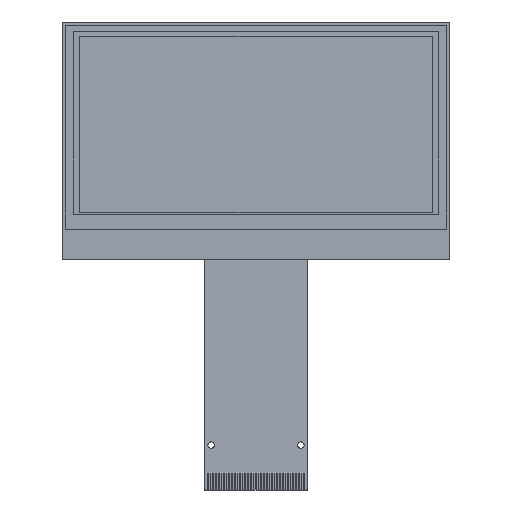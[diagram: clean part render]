
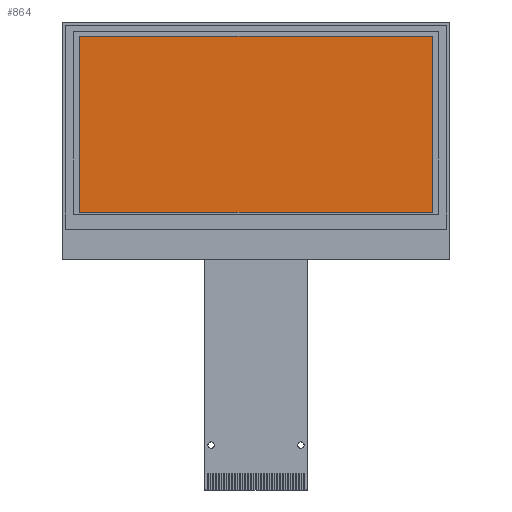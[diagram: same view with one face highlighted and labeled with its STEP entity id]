
A CAD part, top view. The second image highlights one B-rep face of the part: STEP entity #864.
In plain terms, the highlighted planar face has unit normal (0, 0, 1).
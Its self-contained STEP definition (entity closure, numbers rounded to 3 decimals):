
#68 = EDGE_CURVE ( 'NONE', #1901, #5783, #6812, .T. ) ;
#162 = AXIS2_PLACEMENT_3D ( 'NONE', #180, #4733, #6948 ) ;
#180 = CARTESIAN_POINT ( 'NONE',  ( 0., 0., 0.95 ) ) ;
#430 = LINE ( 'NONE', #2493, #6013 ) ;
#788 = ORIENTED_EDGE ( 'NONE', *, *, #6440, .F. ) ;
#864 = ADVANCED_FACE ( 'NONE', ( #6216 ), #3361, .T. ) ;
#1028 = ORIENTED_EDGE ( 'NONE', *, *, #1053, .F. ) ;
#1053 = EDGE_CURVE ( 'NONE', #5794, #1901, #5471, .T. ) ;
#1135 = DIRECTION ( 'NONE',  ( -1., 0., 0. ) ) ;
#1759 = EDGE_CURVE ( 'NONE', #2519, #5794, #430, .T. ) ;
#1822 = DIRECTION ( 'NONE',  ( 0., 1., 0. ) ) ;
#1872 = DIRECTION ( 'NONE',  ( 1., 0., 0. ) ) ;
#1901 = VERTEX_POINT ( 'NONE', #7154 ) ;
#2239 = ORIENTED_EDGE ( 'NONE', *, *, #68, .F. ) ;
#2292 = CARTESIAN_POINT ( 'NONE',  ( 0., -29.69, 0.95 ) ) ;
#2353 = VECTOR ( 'NONE', #1822, 1000. ) ;
#2493 = CARTESIAN_POINT ( 'NONE',  ( 57.76, 0., 0.95 ) ) ;
#2519 = VERTEX_POINT ( 'NONE', #3707 ) ;
#2875 = CARTESIAN_POINT ( 'NONE',  ( 57.76, -29.69, 0.95 ) ) ;
#2984 = CARTESIAN_POINT ( 'NONE',  ( 2.75, 0., 0.95 ) ) ;
#3041 = DIRECTION ( 'NONE',  ( 0., -1., 0. ) ) ;
#3165 = ORIENTED_EDGE ( 'NONE', *, *, #1759, .F. ) ;
#3191 = VECTOR ( 'NONE', #1135, 1000. ) ;
#3361 = PLANE ( 'NONE',  #162 ) ;
#3630 = LINE ( 'NONE', #6858, #5384 ) ;
#3707 = CARTESIAN_POINT ( 'NONE',  ( 57.76, -2.2, 0.95 ) ) ;
#4733 = DIRECTION ( 'NONE',  ( 0., 0., 1. ) ) ;
#5384 = VECTOR ( 'NONE', #1872, 1000. ) ;
#5471 = LINE ( 'NONE', #2292, #3191 ) ;
#5783 = VERTEX_POINT ( 'NONE', #6503 ) ;
#5794 = VERTEX_POINT ( 'NONE', #2875 ) ;
#6013 = VECTOR ( 'NONE', #3041, 1000. ) ;
#6216 = FACE_OUTER_BOUND ( 'NONE', #7000, .T. ) ;
#6440 = EDGE_CURVE ( 'NONE', #5783, #2519, #3630, .T. ) ;
#6503 = CARTESIAN_POINT ( 'NONE',  ( 2.75, -2.2, 0.95 ) ) ;
#6812 = LINE ( 'NONE', #2984, #2353 ) ;
#6858 = CARTESIAN_POINT ( 'NONE',  ( 0., -2.2, 0.95 ) ) ;
#6948 = DIRECTION ( 'NONE',  ( 1., 0., 0. ) ) ;
#7000 = EDGE_LOOP ( 'NONE', ( #2239, #1028, #3165, #788 ) ) ;
#7154 = CARTESIAN_POINT ( 'NONE',  ( 2.75, -29.69, 0.95 ) ) ;
